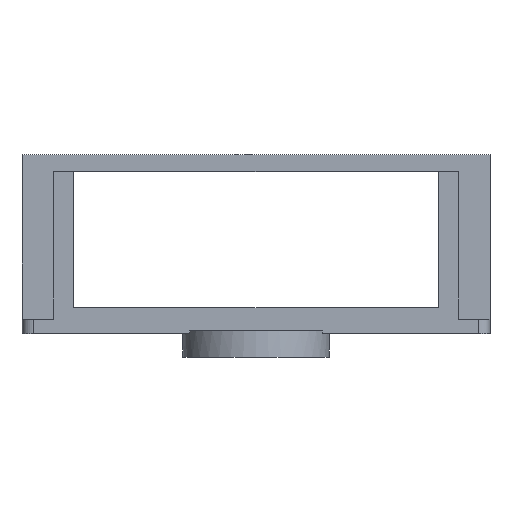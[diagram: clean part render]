
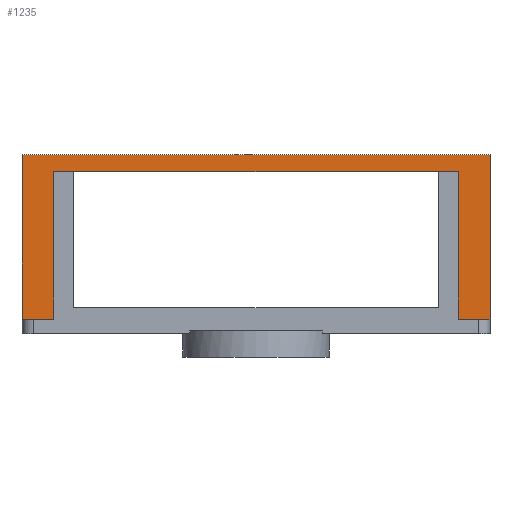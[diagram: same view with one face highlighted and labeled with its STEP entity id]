
A CAD part, top view. The second image highlights one B-rep face of the part: STEP entity #1235.
In plain terms, the highlighted planar face has unit normal (0, 0, 1).
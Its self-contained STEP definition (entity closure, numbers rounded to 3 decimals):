
#32 = PLANE('',#33);
#33 = AXIS2_PLACEMENT_3D('',#34,#35,#36);
#34 = CARTESIAN_POINT('',(-39.855,4.,-24.));
#35 = DIRECTION('',(1.,0.,0.));
#36 = DIRECTION('',(0.,0.,1.));
#141 = VERTEX_POINT('',#142);
#142 = CARTESIAN_POINT('',(-39.855,34.4,41.31));
#156 = PLANE('',#157);
#157 = AXIS2_PLACEMENT_3D('',#158,#159,#160);
#158 = CARTESIAN_POINT('',(-39.855,34.4,2.6));
#159 = DIRECTION('',(0.,1.,0.));
#160 = DIRECTION('',(0.,0.,1.));
#168 = EDGE_CURVE('',#169,#141,#171,.T.);
#169 = VERTEX_POINT('',#170);
#170 = CARTESIAN_POINT('',(-39.855,6.4,41.31));
#171 = SURFACE_CURVE('',#172,(#176,#183),.PCURVE_S1.);
#172 = LINE('',#173,#174);
#173 = CARTESIAN_POINT('',(-39.855,6.4,41.31));
#174 = VECTOR('',#175,1.);
#175 = DIRECTION('',(0.,1.,0.));
#176 = PCURVE('',#32,#177);
#177 = DEFINITIONAL_REPRESENTATION('',(#178),#182);
#178 = LINE('',#179,#180);
#179 = CARTESIAN_POINT('',(65.31,-2.4));
#180 = VECTOR('',#181,1.);
#181 = DIRECTION('',(0.,-1.));
#182 = ( GEOMETRIC_REPRESENTATION_CONTEXT(2) 
PARAMETRIC_REPRESENTATION_CONTEXT() REPRESENTATION_CONTEXT('2D SPACE',''
  ) );
#183 = PCURVE('',#184,#189);
#184 = PLANE('',#185);
#185 = AXIS2_PLACEMENT_3D('',#186,#187,#188);
#186 = CARTESIAN_POINT('',(-39.855,8.4,41.31));
#187 = DIRECTION('',(0.,0.,1.));
#188 = DIRECTION('',(1.,0.,0.));
#189 = DEFINITIONAL_REPRESENTATION('',(#190),#194);
#190 = LINE('',#191,#192);
#191 = CARTESIAN_POINT('',(0.,-2.));
#192 = VECTOR('',#193,1.);
#193 = DIRECTION('',(0.,1.));
#194 = ( GEOMETRIC_REPRESENTATION_CONTEXT(2) 
PARAMETRIC_REPRESENTATION_CONTEXT() REPRESENTATION_CONTEXT('2D SPACE',''
  ) );
#212 = PLANE('',#213);
#213 = AXIS2_PLACEMENT_3D('',#214,#215,#216);
#214 = CARTESIAN_POINT('',(-39.855,6.4,5.4));
#215 = DIRECTION('',(0.,1.,0.));
#216 = DIRECTION('',(0.,0.,1.));
#519 = PLANE('',#520);
#520 = AXIS2_PLACEMENT_3D('',#521,#522,#523);
#521 = CARTESIAN_POINT('',(39.855,4.,-24.));
#522 = DIRECTION('',(1.,0.,0.));
#523 = DIRECTION('',(0.,0.,1.));
#992 = EDGE_CURVE('',#141,#993,#995,.T.);
#993 = VERTEX_POINT('',#994);
#994 = CARTESIAN_POINT('',(39.855,34.4,41.31));
#995 = SURFACE_CURVE('',#996,(#1000,#1007),.PCURVE_S1.);
#996 = LINE('',#997,#998);
#997 = CARTESIAN_POINT('',(-39.855,34.4,41.31));
#998 = VECTOR('',#999,1.);
#999 = DIRECTION('',(1.,0.,0.));
#1000 = PCURVE('',#156,#1001);
#1001 = DEFINITIONAL_REPRESENTATION('',(#1002),#1006);
#1002 = LINE('',#1003,#1004);
#1003 = CARTESIAN_POINT('',(38.71,0.));
#1004 = VECTOR('',#1005,1.);
#1005 = DIRECTION('',(0.,1.));
#1006 = ( GEOMETRIC_REPRESENTATION_CONTEXT(2) 
PARAMETRIC_REPRESENTATION_CONTEXT() REPRESENTATION_CONTEXT('2D SPACE',''
  ) );
#1007 = PCURVE('',#184,#1008);
#1008 = DEFINITIONAL_REPRESENTATION('',(#1009),#1013);
#1009 = LINE('',#1010,#1011);
#1010 = CARTESIAN_POINT('',(0.,26.));
#1011 = VECTOR('',#1012,1.);
#1012 = DIRECTION('',(1.,0.));
#1013 = ( GEOMETRIC_REPRESENTATION_CONTEXT(2) 
PARAMETRIC_REPRESENTATION_CONTEXT() REPRESENTATION_CONTEXT('2D SPACE',''
  ) );
#1235 = ADVANCED_FACE('',(#1236),#184,.T.);
#1236 = FACE_BOUND('',#1237,.T.);
#1237 = EDGE_LOOP('',(#1238,#1239,#1262,#1290,#1318,#1346,#1374,#1395));
#1238 = ORIENTED_EDGE('',*,*,#168,.F.);
#1239 = ORIENTED_EDGE('',*,*,#1240,.T.);
#1240 = EDGE_CURVE('',#169,#1241,#1243,.T.);
#1241 = VERTEX_POINT('',#1242);
#1242 = CARTESIAN_POINT('',(-34.455,6.4,41.31));
#1243 = SURFACE_CURVE('',#1244,(#1248,#1255),.PCURVE_S1.);
#1244 = LINE('',#1245,#1246);
#1245 = CARTESIAN_POINT('',(-39.855,6.4,41.31));
#1246 = VECTOR('',#1247,1.);
#1247 = DIRECTION('',(1.,0.,0.));
#1248 = PCURVE('',#184,#1249);
#1249 = DEFINITIONAL_REPRESENTATION('',(#1250),#1254);
#1250 = LINE('',#1251,#1252);
#1251 = CARTESIAN_POINT('',(0.,-2.));
#1252 = VECTOR('',#1253,1.);
#1253 = DIRECTION('',(1.,0.));
#1254 = ( GEOMETRIC_REPRESENTATION_CONTEXT(2) 
PARAMETRIC_REPRESENTATION_CONTEXT() REPRESENTATION_CONTEXT('2D SPACE',''
  ) );
#1255 = PCURVE('',#212,#1256);
#1256 = DEFINITIONAL_REPRESENTATION('',(#1257),#1261);
#1257 = LINE('',#1258,#1259);
#1258 = CARTESIAN_POINT('',(35.91,0.));
#1259 = VECTOR('',#1260,1.);
#1260 = DIRECTION('',(0.,1.));
#1261 = ( GEOMETRIC_REPRESENTATION_CONTEXT(2) 
PARAMETRIC_REPRESENTATION_CONTEXT() REPRESENTATION_CONTEXT('2D SPACE',''
  ) );
#1262 = ORIENTED_EDGE('',*,*,#1263,.T.);
#1263 = EDGE_CURVE('',#1241,#1264,#1266,.T.);
#1264 = VERTEX_POINT('',#1265);
#1265 = CARTESIAN_POINT('',(-34.455,31.6,41.31));
#1266 = SURFACE_CURVE('',#1267,(#1271,#1278),.PCURVE_S1.);
#1267 = LINE('',#1268,#1269);
#1268 = CARTESIAN_POINT('',(-34.455,6.4,41.31));
#1269 = VECTOR('',#1270,1.);
#1270 = DIRECTION('',(0.,1.,0.));
#1271 = PCURVE('',#184,#1272);
#1272 = DEFINITIONAL_REPRESENTATION('',(#1273),#1277);
#1273 = LINE('',#1274,#1275);
#1274 = CARTESIAN_POINT('',(5.4,-2.));
#1275 = VECTOR('',#1276,1.);
#1276 = DIRECTION('',(0.,1.));
#1277 = ( GEOMETRIC_REPRESENTATION_CONTEXT(2) 
PARAMETRIC_REPRESENTATION_CONTEXT() REPRESENTATION_CONTEXT('2D SPACE',''
  ) );
#1278 = PCURVE('',#1279,#1284);
#1279 = PLANE('',#1280);
#1280 = AXIS2_PLACEMENT_3D('',#1281,#1282,#1283);
#1281 = CARTESIAN_POINT('',(-34.455,6.4,5.4));
#1282 = DIRECTION('',(1.,0.,0.));
#1283 = DIRECTION('',(0.,0.,1.));
#1284 = DEFINITIONAL_REPRESENTATION('',(#1285),#1289);
#1285 = LINE('',#1286,#1287);
#1286 = CARTESIAN_POINT('',(35.91,0.));
#1287 = VECTOR('',#1288,1.);
#1288 = DIRECTION('',(0.,-1.));
#1289 = ( GEOMETRIC_REPRESENTATION_CONTEXT(2) 
PARAMETRIC_REPRESENTATION_CONTEXT() REPRESENTATION_CONTEXT('2D SPACE',''
  ) );
#1290 = ORIENTED_EDGE('',*,*,#1291,.T.);
#1291 = EDGE_CURVE('',#1264,#1292,#1294,.T.);
#1292 = VERTEX_POINT('',#1293);
#1293 = CARTESIAN_POINT('',(34.455,31.6,41.31));
#1294 = SURFACE_CURVE('',#1295,(#1299,#1306),.PCURVE_S1.);
#1295 = LINE('',#1296,#1297);
#1296 = CARTESIAN_POINT('',(-39.855,31.6,41.31));
#1297 = VECTOR('',#1298,1.);
#1298 = DIRECTION('',(1.,0.,0.));
#1299 = PCURVE('',#184,#1300);
#1300 = DEFINITIONAL_REPRESENTATION('',(#1301),#1305);
#1301 = LINE('',#1302,#1303);
#1302 = CARTESIAN_POINT('',(0.,23.2));
#1303 = VECTOR('',#1304,1.);
#1304 = DIRECTION('',(1.,0.));
#1305 = ( GEOMETRIC_REPRESENTATION_CONTEXT(2) 
PARAMETRIC_REPRESENTATION_CONTEXT() REPRESENTATION_CONTEXT('2D SPACE',''
  ) );
#1306 = PCURVE('',#1307,#1312);
#1307 = PLANE('',#1308);
#1308 = AXIS2_PLACEMENT_3D('',#1309,#1310,#1311);
#1309 = CARTESIAN_POINT('',(-39.855,31.6,8.7));
#1310 = DIRECTION('',(0.,1.,0.));
#1311 = DIRECTION('',(0.,0.,1.));
#1312 = DEFINITIONAL_REPRESENTATION('',(#1313),#1317);
#1313 = LINE('',#1314,#1315);
#1314 = CARTESIAN_POINT('',(32.61,0.));
#1315 = VECTOR('',#1316,1.);
#1316 = DIRECTION('',(0.,1.));
#1317 = ( GEOMETRIC_REPRESENTATION_CONTEXT(2) 
PARAMETRIC_REPRESENTATION_CONTEXT() REPRESENTATION_CONTEXT('2D SPACE',''
  ) );
#1318 = ORIENTED_EDGE('',*,*,#1319,.T.);
#1319 = EDGE_CURVE('',#1292,#1320,#1322,.T.);
#1320 = VERTEX_POINT('',#1321);
#1321 = CARTESIAN_POINT('',(34.455,6.4,41.31));
#1322 = SURFACE_CURVE('',#1323,(#1327,#1334),.PCURVE_S1.);
#1323 = LINE('',#1324,#1325);
#1324 = CARTESIAN_POINT('',(34.455,31.6,41.31));
#1325 = VECTOR('',#1326,1.);
#1326 = DIRECTION('',(0.,-1.,0.));
#1327 = PCURVE('',#184,#1328);
#1328 = DEFINITIONAL_REPRESENTATION('',(#1329),#1333);
#1329 = LINE('',#1330,#1331);
#1330 = CARTESIAN_POINT('',(74.31,23.2));
#1331 = VECTOR('',#1332,1.);
#1332 = DIRECTION('',(0.,-1.));
#1333 = ( GEOMETRIC_REPRESENTATION_CONTEXT(2) 
PARAMETRIC_REPRESENTATION_CONTEXT() REPRESENTATION_CONTEXT('2D SPACE',''
  ) );
#1334 = PCURVE('',#1335,#1340);
#1335 = PLANE('',#1336);
#1336 = AXIS2_PLACEMENT_3D('',#1337,#1338,#1339);
#1337 = CARTESIAN_POINT('',(34.455,6.4,5.4));
#1338 = DIRECTION('',(1.,0.,0.));
#1339 = DIRECTION('',(0.,0.,1.));
#1340 = DEFINITIONAL_REPRESENTATION('',(#1341),#1345);
#1341 = LINE('',#1342,#1343);
#1342 = CARTESIAN_POINT('',(35.91,-25.2));
#1343 = VECTOR('',#1344,1.);
#1344 = DIRECTION('',(0.,1.));
#1345 = ( GEOMETRIC_REPRESENTATION_CONTEXT(2) 
PARAMETRIC_REPRESENTATION_CONTEXT() REPRESENTATION_CONTEXT('2D SPACE',''
  ) );
#1346 = ORIENTED_EDGE('',*,*,#1347,.T.);
#1347 = EDGE_CURVE('',#1320,#1348,#1350,.T.);
#1348 = VERTEX_POINT('',#1349);
#1349 = CARTESIAN_POINT('',(39.855,6.4,41.31));
#1350 = SURFACE_CURVE('',#1351,(#1355,#1362),.PCURVE_S1.);
#1351 = LINE('',#1352,#1353);
#1352 = CARTESIAN_POINT('',(34.455,6.4,41.31));
#1353 = VECTOR('',#1354,1.);
#1354 = DIRECTION('',(1.,0.,0.));
#1355 = PCURVE('',#184,#1356);
#1356 = DEFINITIONAL_REPRESENTATION('',(#1357),#1361);
#1357 = LINE('',#1358,#1359);
#1358 = CARTESIAN_POINT('',(74.31,-2.));
#1359 = VECTOR('',#1360,1.);
#1360 = DIRECTION('',(1.,0.));
#1361 = ( GEOMETRIC_REPRESENTATION_CONTEXT(2) 
PARAMETRIC_REPRESENTATION_CONTEXT() REPRESENTATION_CONTEXT('2D SPACE',''
  ) );
#1362 = PCURVE('',#1363,#1368);
#1363 = PLANE('',#1364);
#1364 = AXIS2_PLACEMENT_3D('',#1365,#1366,#1367);
#1365 = CARTESIAN_POINT('',(34.455,6.4,5.4));
#1366 = DIRECTION('',(0.,1.,0.));
#1367 = DIRECTION('',(0.,0.,1.));
#1368 = DEFINITIONAL_REPRESENTATION('',(#1369),#1373);
#1369 = LINE('',#1370,#1371);
#1370 = CARTESIAN_POINT('',(35.91,0.));
#1371 = VECTOR('',#1372,1.);
#1372 = DIRECTION('',(0.,1.));
#1373 = ( GEOMETRIC_REPRESENTATION_CONTEXT(2) 
PARAMETRIC_REPRESENTATION_CONTEXT() REPRESENTATION_CONTEXT('2D SPACE',''
  ) );
#1374 = ORIENTED_EDGE('',*,*,#1375,.T.);
#1375 = EDGE_CURVE('',#1348,#993,#1376,.T.);
#1376 = SURFACE_CURVE('',#1377,(#1381,#1388),.PCURVE_S1.);
#1377 = LINE('',#1378,#1379);
#1378 = CARTESIAN_POINT('',(39.855,6.4,41.31));
#1379 = VECTOR('',#1380,1.);
#1380 = DIRECTION('',(0.,1.,0.));
#1381 = PCURVE('',#184,#1382);
#1382 = DEFINITIONAL_REPRESENTATION('',(#1383),#1387);
#1383 = LINE('',#1384,#1385);
#1384 = CARTESIAN_POINT('',(79.71,-2.));
#1385 = VECTOR('',#1386,1.);
#1386 = DIRECTION('',(0.,1.));
#1387 = ( GEOMETRIC_REPRESENTATION_CONTEXT(2) 
PARAMETRIC_REPRESENTATION_CONTEXT() REPRESENTATION_CONTEXT('2D SPACE',''
  ) );
#1388 = PCURVE('',#519,#1389);
#1389 = DEFINITIONAL_REPRESENTATION('',(#1390),#1394);
#1390 = LINE('',#1391,#1392);
#1391 = CARTESIAN_POINT('',(65.31,-2.4));
#1392 = VECTOR('',#1393,1.);
#1393 = DIRECTION('',(0.,-1.));
#1394 = ( GEOMETRIC_REPRESENTATION_CONTEXT(2) 
PARAMETRIC_REPRESENTATION_CONTEXT() REPRESENTATION_CONTEXT('2D SPACE',''
  ) );
#1395 = ORIENTED_EDGE('',*,*,#992,.F.);
